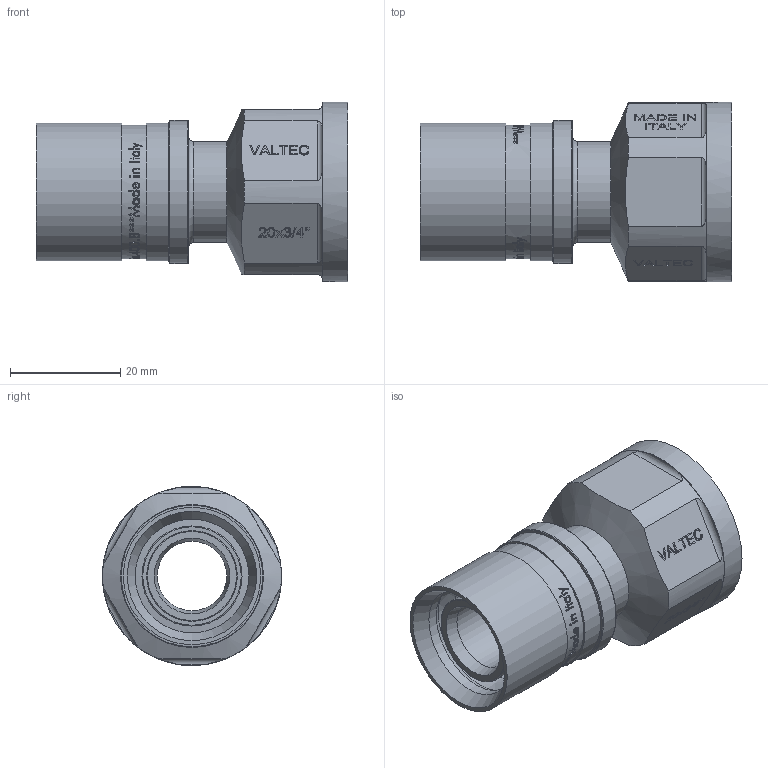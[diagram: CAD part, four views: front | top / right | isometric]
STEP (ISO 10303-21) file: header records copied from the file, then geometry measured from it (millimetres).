
FILE_DESCRIPTION(/* description */ (''),/* implementation_level */ '2;1');
FILE_NAME(/* name */ 'F:\Артём\00000\Работа удаленка\Аксеальные фитинги\VTm.402.BG.002005.stp',/* time_stamp */ '2021-01-25T14:15:53+03:00',/* author */ ('almis'),/* organization */ (''),/* preprocessor_version */ 'ST-DEVELOPER v18',/* originating_system */ 'Autodesk Inventor 2020',/* authorisation */ '');
FILE_SCHEMA (('AUTOMOTIVE_DESIGN { 1 0 10303 214 3 1 1 }'));
Length unit declared in the file: millimetre
Products named in the file (1): VTm.403.BG.001616
Bounding box: 56.56 x 32.6 x 32.6 mm (x, y, z)
Volume: 13883 mm3; surface area: 13765.1 mm2
Topology: 1 solids, 1 shells, 1084 faces, 2962 edges, 1992 vertices
Faces by surface type: plane 490, bspline 451, cylinder 109, torus 23, cone 11
Full cylindrical faces by diameter (mm): 12.6 x1, 15.7 x5, 16.5 x4, 18.2 x1, 18.3 x1, 20.65 x2, 24.1 x7, 24.3 x1, 25 x2, 26 x1, 27.7 x8, 32.6 x1
Entity records: 43640 total; most frequent: CARTESIAN_POINT 18894, ORIENTED_EDGE 5924, DIRECTION 3666, EDGE_CURVE 2962, VERTEX_POINT 1992, LINE 1608, VECTOR 1608, EDGE_LOOP 1198
